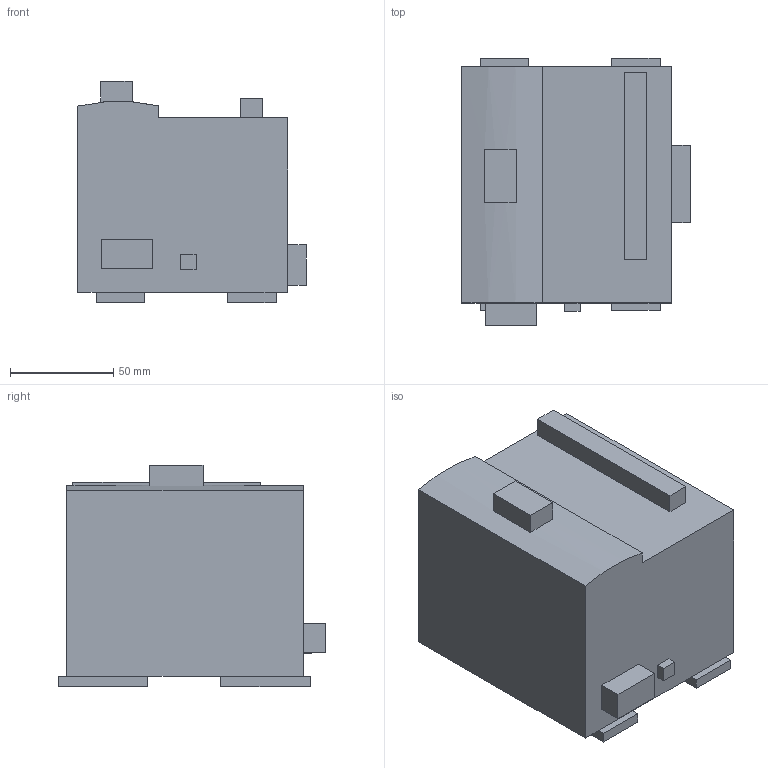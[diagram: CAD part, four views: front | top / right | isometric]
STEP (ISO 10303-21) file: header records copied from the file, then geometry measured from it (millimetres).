
FILE_DESCRIPTION (( 'STEP AP214' ), '1' );
FILE_NAME ('PLC500.STEP', '2022-05-20T16:08:53', ( '' ), ( '' ), 'SwSTEP 2.0', 'SolidWorks 2018', '' );
FILE_SCHEMA (( 'AUTOMOTIVE_DESIGN' ));
Length unit declared in the file: millimetre
Products named in the file (1): PLC500
Bounding box: 110.6 x 129.54 x 107.2 mm (x, y, z)
Volume: 1057846.8 mm3; surface area: 69775.8 mm2
Topology: 1 solids, 1 shells, 57 faces, 142 edges, 92 vertices
Faces by surface type: plane 56, cylinder 1
Entity records: 1690 total; most frequent: CARTESIAN_POINT 292, ORIENTED_EDGE 284, DIRECTION 262, EDGE_CURVE 142, LINE 138, VECTOR 138, VERTEX_POINT 92, EDGE_LOOP 62
